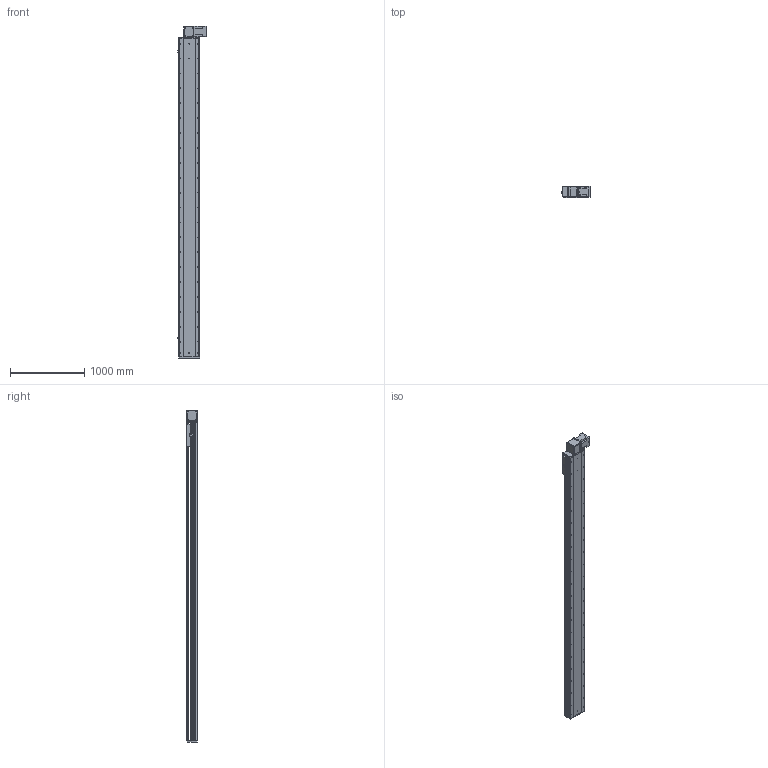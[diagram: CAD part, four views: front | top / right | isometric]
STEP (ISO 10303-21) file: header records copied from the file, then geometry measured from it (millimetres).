
FILE_DESCRIPTION (( 'STEP AP214' ), '1' );
FILE_NAME ('RTB28S-XX-3850-BL-M100-XX-C4.STEP', '2025-12-22T02:41:36', ( '' ), ( '' ), 'SwSTEP 2.0', 'SolidWorks 2018', '' );
FILE_SCHEMA (( 'AUTOMOTIVE_DESIGN' ));
Length unit declared in the file: millimetre
Products named in the file (4): RTB28S-GY-004^RTB28S-XX-XX-BL-M100-XX-C4; RTB28S-GY-011^RTB28S-XX-XX-BL-M100-XX-C4; RTB28S-GY-008^RTB28S-XX-XX-BL-M100-XX-C4; RTB28S-XX-3850-BL-M100-XX-C4
Assembly tree (3 placements, depth 2):
  RTB28S-XX-3850-BL-M100-XX-C4
    RTB28S-GY-011^RTB28S-XX-XX-BL-M100-XX-C4
    RTB28S-GY-004^RTB28S-XX-XX-BL-M100-XX-C4
    RTB28S-GY-008^RTB28S-XX-XX-BL-M100-XX-C4
Bounding box: 380.7 x 145 x 4457 mm (x, y, z)
Volume: 74498253.4 mm3; surface area: 6911078.8 mm2
Topology: 3 solids, 4 shells, 928 faces, 2508 edges, 1608 vertices
Faces by surface type: cylinder 471, plane 373, cone 80, torus 4
Entity records: 36317 total; most frequent: CARTESIAN_POINT 7102, DIRECTION 5346, ORIENTED_EDGE 4952, EDGE_CURVE 2476, AXIS2_PLACEMENT_3D 1988, VERTEX_POINT 1608, VECTOR 1370, LINE 1370
